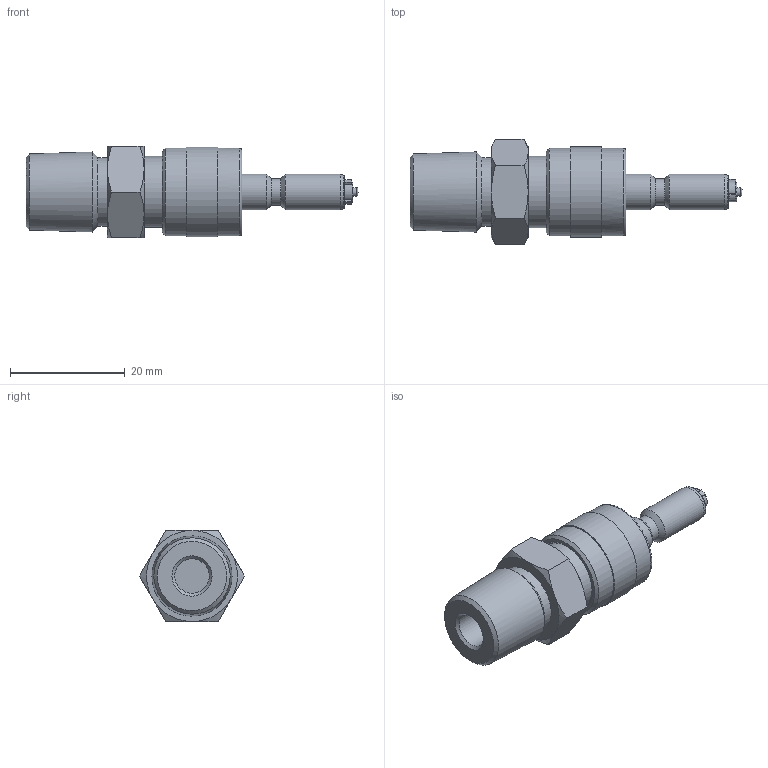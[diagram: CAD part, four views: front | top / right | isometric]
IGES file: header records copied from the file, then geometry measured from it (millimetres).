
Global section: file name: SQC1P-M4N-D0; native system: Autodesk Inventor 2016; preprocessor: unknown; author: 이승민,,11,0; organization: 20170208.093137; date: 20170209.081456; units: millimetre
Bounding box: 57.9 x 18.33 x 15.88 mm (x, y, z)
Volume: 6148.7 mm3; surface area: 3429.2 mm2
Topology: 1 solids, 1 shells, 97 faces, 268 edges, 184 vertices
Faces by surface type: bspline 97
